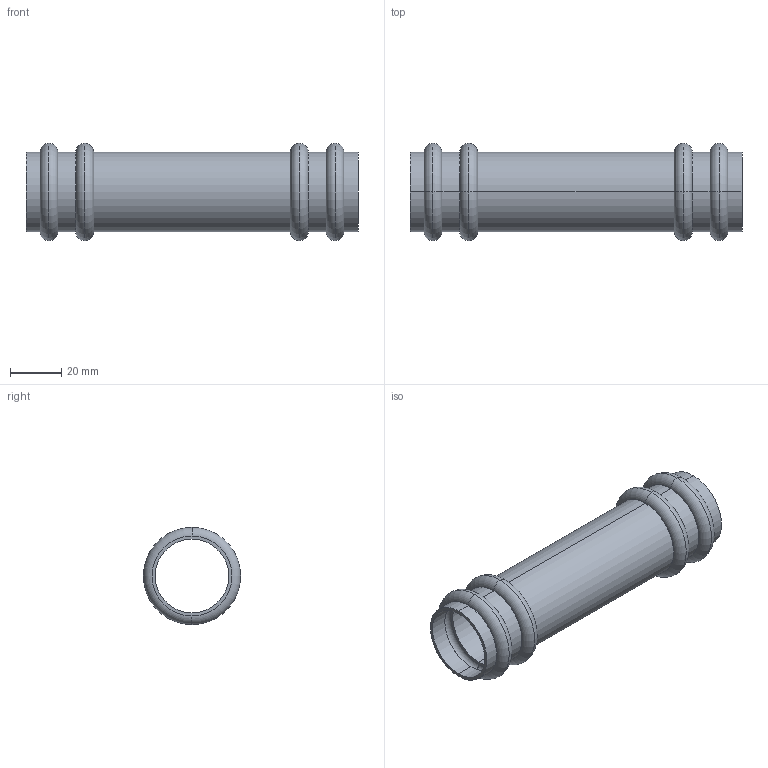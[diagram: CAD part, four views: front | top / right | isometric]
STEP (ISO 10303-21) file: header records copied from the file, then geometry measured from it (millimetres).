
FILE_DESCRIPTION(('starvars output'),'1');
FILE_NAME('cv20240422104931000011587.stp','10:49:32 2024/04/22',('Thomas Industrial Network Germany GmbH'),(' '),'Spatial InterOp 3D',' ',' ');
FILE_SCHEMA(('AUTOMOTIVE_DESIGN { 1 0 10303 214 3 1 1 }'));
Length unit declared in the file: millimetre
Products named in the file (1): 1
Bounding box: 130.05 x 38.1 x 38.1 mm (x, y, z)
Volume: 17746.5 mm3; surface area: 29235.9 mm2
Topology: 1 solids, 1 shells, 70 faces, 140 edges, 88 vertices
Faces by surface type: torus 32, cylinder 20, plane 18
Entity records: 2464 total; most frequent: DIRECTION 402, CARTESIAN_POINT 299, ORIENTED_EDGE 280, AXIS2_PLACEMENT_3D 191, EDGE_CURVE 140, CIRCLE 120, EDGE_LOOP 88, VERTEX_POINT 88
